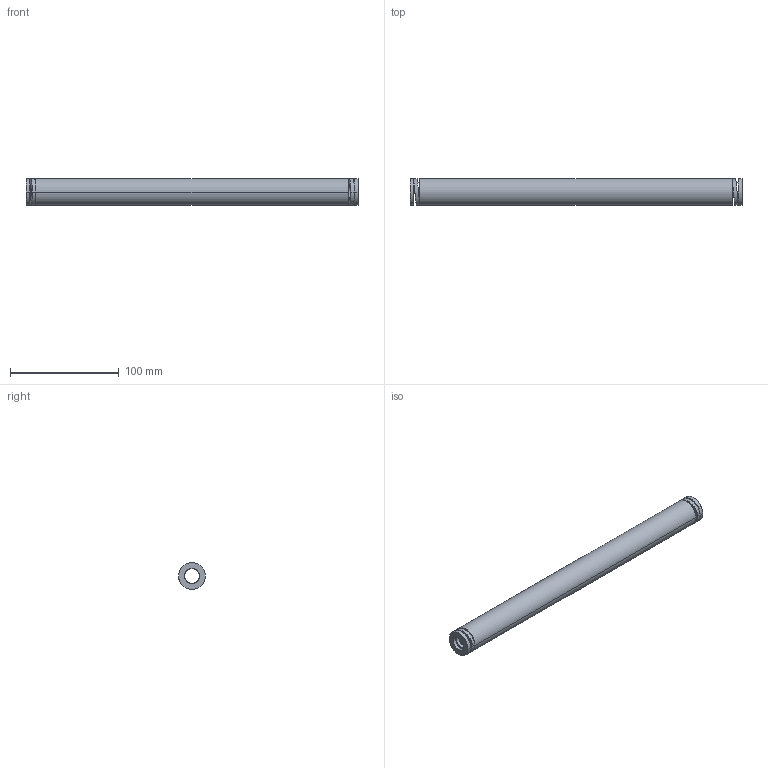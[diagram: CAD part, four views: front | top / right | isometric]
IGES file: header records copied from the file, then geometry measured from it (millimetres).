
Start section: START RECORD GO HERE.
Global section: file name: 392-B25-305.igs; native system: DASSAULT SYSTEMES CATIA V5 R20 - www.3ds.com; preprocessor: CATIA Version 5 Release 20 ; author: Utente; organization: NB04-ASUS; date: 20210813.100745; units: millimetre
Bounding box: 305 x 24.7 x 24.5 mm (x, y, z)
Surface area: 39259 mm2 (no closed solid volume)
Topology: 0 solids, 0 shells, 38 faces, 184 edges, 184 vertices
Faces by surface type: revolution 28, plane 10
